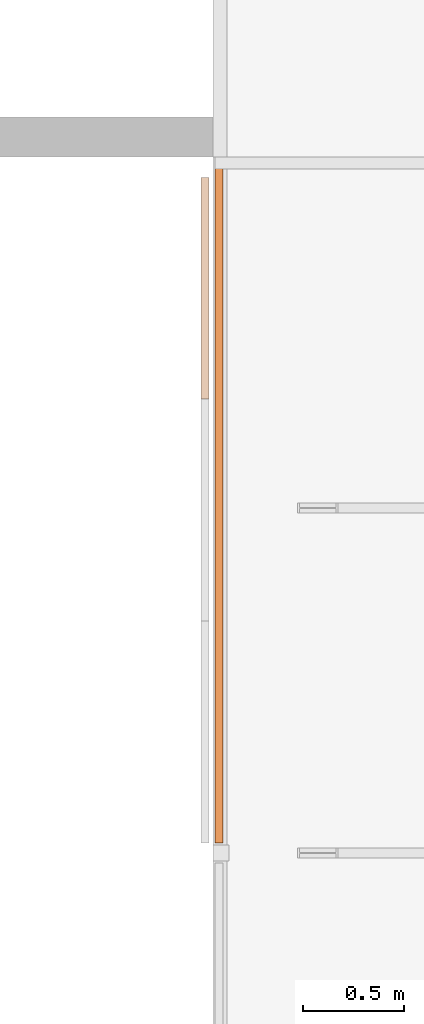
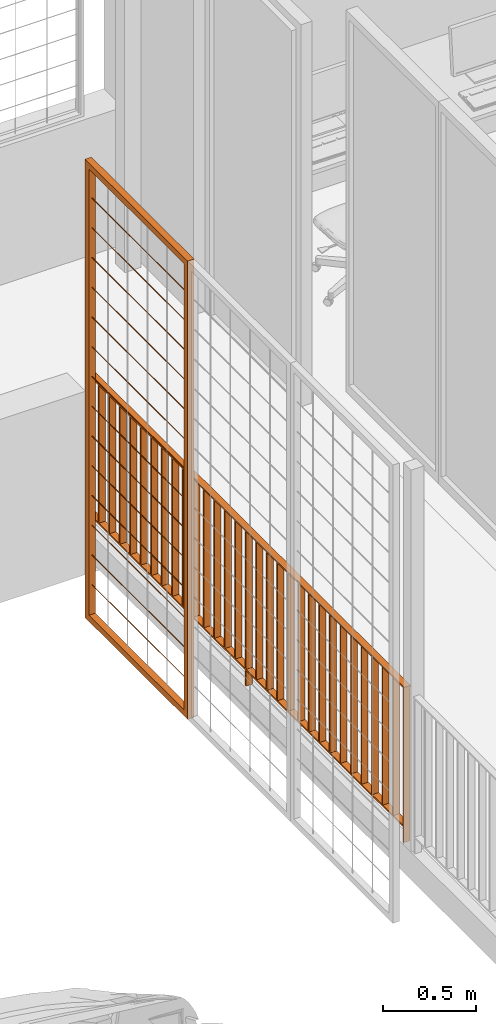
# One storey, part 46 of 51: 2 proxies.
"""IFC2X3 building model written with IfcOpenShell, lengths in metres."""

from ifc_helpers import new_model, entity, si_unit, converted_unit, derived_unit, direction, frame, frame_2d, origin, origin_2d_with_axis, place, context, subcontext, project, spatial, polyline, rectangle, outline, extrude, source, transform, mapped, material, type_object, type_shapes, element, save


model = new_model("IFC2X3")

# Units and contexts
model_context = context("Model", 3, precision=1e-05, world=origin(), true_north=direction((6.123031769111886e-17, 1.0)))
body_context = subcontext(model_context, "Body", "Model", "MODEL_VIEW")
ifc_project = project(units=[si_unit("LENGTHUNIT", "METRE"), si_unit("AREAUNIT", "SQUARE_METRE"), si_unit("VOLUMEUNIT", "CUBIC_METRE"), converted_unit("PLANEANGLEUNIT", "DEGREE", entity("IfcRatioMeasure", 0.017453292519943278), si_unit("PLANEANGLEUNIT", "RADIAN"), dimensions=[0, 0, 0, 0, 0, 0, 0]), si_unit("MASSUNIT", "GRAM", prefix="KILO"), derived_unit("MASSDENSITYUNIT", [(si_unit("MASSUNIT", "GRAM", prefix="KILO"), 1), (si_unit("LENGTHUNIT", "METRE"), -3)]), derived_unit("MOMENTOFINERTIAUNIT", [(si_unit("LENGTHUNIT", "METRE"), 4)]), si_unit("TIMEUNIT", "SECOND"), si_unit("FREQUENCYUNIT", "HERTZ"), si_unit("THERMODYNAMICTEMPERATUREUNIT", "DEGREE_CELSIUS"), derived_unit("THERMALTRANSMITTANCEUNIT", [(si_unit("MASSUNIT", "GRAM", prefix="KILO"), 1), (si_unit("THERMODYNAMICTEMPERATUREUNIT", "KELVIN"), -1), (si_unit("TIMEUNIT", "SECOND"), -3)]), derived_unit("THERMALCONDUCTANCEUNIT", [(si_unit("MASSUNIT", "GRAM", prefix="KILO"), 1), (si_unit("LENGTHUNIT", "METRE"), 1), (si_unit("THERMODYNAMICTEMPERATUREUNIT", "KELVIN"), -1), (si_unit("TIMEUNIT", "SECOND"), -3)]), derived_unit("VOLUMETRICFLOWRATEUNIT", [(si_unit("LENGTHUNIT", "METRE"), 3), (si_unit("TIMEUNIT", "SECOND"), -1)]), derived_unit("MASSFLOWRATEUNIT", [(si_unit("MASSUNIT", "GRAM", prefix="KILO"), 1), (si_unit("TIMEUNIT", "SECOND"), -1)]), derived_unit("ROTATIONALFREQUENCYUNIT", [(si_unit("TIMEUNIT", "SECOND"), -1)]), si_unit("ELECTRICCURRENTUNIT", "AMPERE"), si_unit("ELECTRICVOLTAGEUNIT", "VOLT"), si_unit("POWERUNIT", "WATT"), si_unit("FORCEUNIT", "NEWTON", prefix="KILO"), si_unit("ILLUMINANCEUNIT", "LUX"), si_unit("LUMINOUSFLUXUNIT", "LUMEN"), si_unit("LUMINOUSINTENSITYUNIT", "CANDELA"), derived_unit("USERDEFINED", [(si_unit("MASSUNIT", "GRAM", prefix="KILO"), -1), (si_unit("LENGTHUNIT", "METRE"), -2), (si_unit("TIMEUNIT", "SECOND"), 3), (si_unit("LUMINOUSFLUXUNIT", "LUMEN"), 1)]), derived_unit("USERDEFINED", [(si_unit("MASSUNIT", "GRAM", prefix="KILO"), 1), (si_unit("LENGTHUNIT", "METRE"), 3), (si_unit("TIMEUNIT", "SECOND"), -3), (si_unit("ELECTRICCURRENTUNIT", "AMPERE"), -2)]), derived_unit("USERDEFINED", [(si_unit("LENGTHUNIT", "METRE"), 2), (si_unit("TIMEUNIT", "SECOND"), -2)]), derived_unit("SOUNDPOWERUNIT", [(si_unit("MASSUNIT", "GRAM", prefix="KILO"), 1), (si_unit("LENGTHUNIT", "METRE"), 2), (si_unit("TIMEUNIT", "SECOND"), -3)]), derived_unit("SOUNDPRESSUREUNIT", [(si_unit("MASSUNIT", "GRAM", prefix="KILO"), 1), (si_unit("LENGTHUNIT", "METRE"), -1), (si_unit("TIMEUNIT", "SECOND"), -2)]), derived_unit("LINEARVELOCITYUNIT", [(si_unit("LENGTHUNIT", "METRE"), 1), (si_unit("TIMEUNIT", "SECOND"), -1)]), si_unit("PRESSUREUNIT", "PASCAL"), derived_unit("USERDEFINED", [(si_unit("LENGTHUNIT", "METRE"), -2), (si_unit("MASSUNIT", "GRAM", prefix="KILO"), 1), (si_unit("TIMEUNIT", "SECOND"), -2)]), derived_unit("LINEARFORCEUNIT", [(si_unit("MASSUNIT", "GRAM", prefix="KILO"), 1), (si_unit("LENGTHUNIT", "METRE"), 1), (si_unit("TIMEUNIT", "SECOND"), -2), (si_unit("LENGTHUNIT", "METRE"), -1)]), derived_unit("PLANARFORCEUNIT", [(si_unit("MASSUNIT", "GRAM", prefix="KILO"), 1), (si_unit("LENGTHUNIT", "METRE"), 1), (si_unit("TIMEUNIT", "SECOND"), -2), (si_unit("LENGTHUNIT", "METRE"), -2)]), derived_unit("SPECIFICHEATCAPACITYUNIT", [(si_unit("LENGTHUNIT", "METRE"), 2), (si_unit("TIMEUNIT", "SECOND"), -2), (si_unit("THERMODYNAMICTEMPERATUREUNIT", "KELVIN"), -1)]), derived_unit("VAPORPERMEABILITYUNIT", [(si_unit("TIMEUNIT", "SECOND"), 1), (si_unit("LENGTHUNIT", "METRE"), -1)]), derived_unit("DYNAMICVISCOSITYUNIT", [(si_unit("MASSUNIT", "GRAM", prefix="KILO"), 1), (si_unit("LENGTHUNIT", "METRE"), -1), (si_unit("TIMEUNIT", "SECOND"), -1)]), derived_unit("THERMALEXPANSIONCOEFFICIENTUNIT", [(si_unit("THERMODYNAMICTEMPERATUREUNIT", "KELVIN"), -1)])], contexts=[model_context])

# Site, building, storey
site_placement = place(None, origin())
site = spatial("IfcSite", under=ifc_project, at=site_placement, Name="Default", CompositionType="ELEMENT")
building_placement = place(site_placement, origin())
building = spatial("IfcBuilding", under=site, at=building_placement, CompositionType="ELEMENT")
storey_placement = place(building_placement, frame((0.0, 0.0, 3.06)))
storey = spatial("IfcBuildingStorey", under=building, at=storey_placement, Name="ÉTAGE", CompositionType="ELEMENT", Elevation=3.06)

# Proxies
ifc_material_1 = material(Name="Peinture - Gris foncé")
building_element_proxy_type_1 = type_object("IfcBuildingElementProxyType", Name="Symb-0003", PredefinedType="NOTDEFINED", material=ifc_material_1)
shared_shape_1 = source(origin(), body_context, "Body", "SweptSolid", [
    extrude(outline(polyline([(-0.0011785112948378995, -0.002357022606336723), (0.0, -0.0023570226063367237), (0.001767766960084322, -0.0017677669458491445), (0.002357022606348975, 0.0), (0.0023570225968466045, 0.0011785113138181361), (0.0011785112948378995, 0.002357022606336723), (0.0, 0.002357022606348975), (-0.001767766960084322, 0.0017677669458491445), (-0.0023570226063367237, 0.0), (-0.0023570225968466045, -0.0011785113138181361), (-0.0011785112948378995, -0.002357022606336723)])), frame((139.86075228, 22.6772095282, 6.7275), z_axis=(0.0, 1.0, 0.0), x_axis=(-0.7071067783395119, 0.0, -0.7071067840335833)), (0.0, 0.0, 1.0), 1.0200000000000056),
    extrude(outline(polyline([(-0.0011785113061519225, -0.0023570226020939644), (0.0, -0.002357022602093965), (0.0017677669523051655, -0.001767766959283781), (0.0023570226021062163, 0.0), (0.002357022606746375, 0.0011785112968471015), (0.0011785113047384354, 0.0023570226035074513), (0.0, 0.0023570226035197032), (-0.0017677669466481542, 0.0017677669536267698), (-0.002357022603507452, 0.0), (-0.0023570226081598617, -0.0011785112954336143), (-0.0011785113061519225, -0.0023570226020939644)])), frame((139.86075228, 22.6772095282, 6.532833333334), z_axis=(0.0, 1.0, 0.0), x_axis=(-0.7071067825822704, 0.0, -0.7071067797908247)), (0.0, 0.0, 1.0), 1.0200000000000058),
    extrude(outline(polyline([(-0.001178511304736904, -0.002357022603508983), (0.0, -0.002357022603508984), (0.0017677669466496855, -0.001767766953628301), (0.002357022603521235, 0.0), (0.0023570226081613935, 0.0011785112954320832), (0.0011785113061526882, 0.002357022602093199), (0.0, 0.002357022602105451), (-0.0017677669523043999, 0.0017677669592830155), (-0.0023570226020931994, 0.0), (-0.0023570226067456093, -0.0011785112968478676), (-0.001178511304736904, -0.002357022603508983)])), frame((139.86075228, 22.6772095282, 6.338166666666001), z_axis=(0.0, 1.0, 0.0), x_axis=(-0.7071067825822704, 0.0, -0.7071067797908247)), (0.0, 0.0, 1.0), 1.0200000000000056),
    extrude(outline(polyline([(-0.0011785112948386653, -0.0023570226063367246), (0.0, -0.0023570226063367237), (0.0017677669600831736, -0.001767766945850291), (0.002357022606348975, 0.0), (0.0023570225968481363, 0.001178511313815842), (0.0011785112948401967, 0.0023570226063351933), (0.0, 0.002357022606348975), (-0.001767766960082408, 0.0017677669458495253), (-0.0023570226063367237, 0.0), (-0.002357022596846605, -0.0011785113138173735), (-0.0011785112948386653, -0.0023570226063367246)])), frame((139.86075228, 22.6772095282, 6.1435), z_axis=(0.0, 1.0, 0.0), x_axis=(-0.7071067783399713, 0.0, -0.7071067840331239)), (0.0, 0.0, 1.0), 1.0200000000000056),
    extrude(outline(polyline([(-0.0011785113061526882, -0.002357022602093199), (0.0, -0.0023570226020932), (0.0017677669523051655, -0.001767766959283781), (0.002357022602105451, 0.0), (0.0023570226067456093, 0.0011785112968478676), (0.0011785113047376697, 0.002357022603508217), (0.0, 0.0023570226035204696), (-0.0017677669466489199, 0.0017677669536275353), (-0.002357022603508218, 0.0), (-0.0023570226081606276, -0.0011785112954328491), (-0.0011785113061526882, -0.002357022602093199)])), frame((139.86075228, 22.6772095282, 5.948833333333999), z_axis=(0.0, 1.0, 0.0), x_axis=(-0.7071067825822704, 0.0, -0.7071067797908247)), (0.0, 0.0, 1.0), 1.0200000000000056),
    extrude(outline(polyline([(-0.0011785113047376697, -0.002357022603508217), (0.0, -0.002357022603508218), (0.0017677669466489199, -0.0017677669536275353), (0.0023570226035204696, 0.0), (0.0023570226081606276, 0.0011785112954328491), (0.0011785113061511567, 0.0023570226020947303), (0.0, 0.0023570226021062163), (-0.0017677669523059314, 0.0017677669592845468), (-0.0023570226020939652, 0.0), (-0.0023570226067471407, -0.0011785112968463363), (-0.0011785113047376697, -0.002357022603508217)])), frame((139.86075228, 22.6772095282, 5.754166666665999), z_axis=(0.0, 1.0, 0.0), x_axis=(-0.7071067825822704, 0.0, -0.7071067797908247)), (0.0, 0.0, 1.0), 1.0200000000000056),
    extrude(outline(polyline([(-0.001178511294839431, -0.0023570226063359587), (0.0, -0.002357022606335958), (0.001767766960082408, -0.0017677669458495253), (0.0023570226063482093, 0.0), (0.0023570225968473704, 0.0011785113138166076), (0.001178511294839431, 0.0023570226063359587), (0.0, 0.0023570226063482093), (-0.001767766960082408, 0.0017677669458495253), (-0.002357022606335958, 0.0), (-0.0023570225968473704, -0.0011785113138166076), (-0.001178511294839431, -0.0023570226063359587)])), frame((139.86075228, 22.6772095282, 5.5595), z_axis=(0.0, 1.0, 0.0), x_axis=(-0.7071067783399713, 0.0, -0.7071067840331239)), (0.0, 0.0, 1.0), 1.0200000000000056),
    extrude(outline(polyline([(-0.0011785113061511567, -0.0023570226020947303), (0.0, -0.002357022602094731), (0.001767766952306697, -0.0017677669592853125), (0.002357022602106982, 0.0), (0.0023570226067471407, 0.0011785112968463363), (0.001178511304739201, 0.0023570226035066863), (0.0, 0.0023570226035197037), (-0.0017677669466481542, 0.0017677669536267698), (-0.002357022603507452, 0.0), (-0.0023570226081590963, -0.0011785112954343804), (-0.0011785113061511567, -0.0023570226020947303)])), frame((139.86075228, 22.6772095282, 5.364833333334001), z_axis=(0.0, 1.0, 0.0), x_axis=(-0.7071067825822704, 0.0, -0.7071067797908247)), (0.0, 0.0, 1.0), 1.0200000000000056),
    extrude(outline(polyline([(-0.001178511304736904, -0.002357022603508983), (0.0, -0.002357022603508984), (0.0017677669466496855, -0.001767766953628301), (0.002357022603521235, 0.0), (0.0023570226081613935, 0.0011785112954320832), (0.0011785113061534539, 0.002357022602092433), (0.0, 0.002357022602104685), (-0.0017677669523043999, 0.0017677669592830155), (-0.002357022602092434, 0.0), (-0.0023570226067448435, -0.0011785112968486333), (-0.001178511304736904, -0.002357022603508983)])), frame((139.86075228, 22.6772095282, 5.1701666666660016), z_axis=(0.0, 1.0, 0.0), x_axis=(-0.7071067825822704, 0.0, -0.7071067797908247)), (0.0, 0.0, 1.0), 1.0200000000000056),
    extrude(outline(polyline([(-0.001178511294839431, -0.0023570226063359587), (0.0, -0.002357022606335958), (0.001767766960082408, -0.0017677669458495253), (0.0023570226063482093, 0.0), (0.0023570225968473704, 0.0011785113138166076), (0.0011785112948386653, 0.0023570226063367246), (0.0, 0.0023570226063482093), (-0.0017677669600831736, 0.001767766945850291), (-0.002357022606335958, 0.0), (-0.0023570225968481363, -0.001178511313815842), (-0.001178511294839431, -0.0023570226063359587)])), frame((139.86075228, 22.6772095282, 4.975499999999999), z_axis=(0.0, 1.0, 0.0), x_axis=(-0.7071067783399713, 0.0, -0.7071067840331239)), (0.0, 0.0, 1.0), 1.0200000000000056),
    extrude(outline(polyline([(-0.0011785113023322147, -0.0023570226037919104), (0.0, -0.002357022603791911), (0.0017677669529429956, -0.0017677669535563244), (0.002357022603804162, 0.0), (0.002357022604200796, 0.0011785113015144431), (0.0011785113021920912, 0.002357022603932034), (0.0, 0.0023570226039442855), (-0.001767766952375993, 0.0017677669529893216), (-0.0023570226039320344, 0.0), (-0.0023570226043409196, -0.0011785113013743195), (-0.0011785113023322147, -0.0023570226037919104)])), frame((139.86075228, 22.6772095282, 4.780833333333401), z_axis=(0.0, 1.0, 0.0), x_axis=(-0.7071067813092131, 0.0, -0.7071067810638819)), (0.0, 0.0, 1.0), 1.0200000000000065),
    extrude(outline(polyline([(-0.0011785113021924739, -0.0023570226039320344), (0.0, -0.0023570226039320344), (0.0017677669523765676, -0.0017677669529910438), (0.002357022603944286, 0.0), (0.0023570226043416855, 0.0011785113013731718), (0.0011785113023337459, 0.002357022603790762), (0.0, 0.0023570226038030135), (-0.0017677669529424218, 0.0017677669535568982), (-0.0023570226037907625, 0.0), (-0.002357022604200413, -0.001178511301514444), (-0.0011785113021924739, -0.0023570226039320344)])), frame((139.86075228, 22.6772095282, 4.5861666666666), z_axis=(0.0, 1.0, 0.0), x_axis=(-0.7071067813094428, 0.0, -0.7071067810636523)), (0.0, 0.0, 1.0), 1.0200000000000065),
    extrude(outline(polyline([(-0.0011785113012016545, -0.0023570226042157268), (0.0, -0.002357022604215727), (0.001767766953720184, -0.0017677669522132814), (0.0023570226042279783, 0.0), (0.0023570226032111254, 0.0011785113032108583), (0.001178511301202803, 0.0023570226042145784), (0.0, 0.002357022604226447), (-0.0017677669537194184, 0.0017677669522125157), (-0.002357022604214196, 0.0), (-0.0023570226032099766, -0.0011785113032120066), (-0.0011785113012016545, -0.0023570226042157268)])), frame((139.86075228, 22.6772095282, 4.391500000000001), z_axis=(0.0, 1.0, 0.0), x_axis=(-0.707106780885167, 0.0, -0.707106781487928)), (0.0, 0.0, 1.0), 1.0200000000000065),
    extrude(outline(polyline([(-0.0011785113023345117, -0.0023570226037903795), (0.0, -0.0023570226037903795), (0.0017677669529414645, -0.0017677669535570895), (0.0023570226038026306, 0.0), (0.002357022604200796, 0.0011785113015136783), (0.001178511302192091, 0.0023570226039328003), (0.0, 0.002357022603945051), (-0.00176776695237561, 0.001767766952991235), (-0.0023570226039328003, 0.0), (-0.002357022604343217, -0.0011785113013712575), (-0.0011785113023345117, -0.0023570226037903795)])), frame((139.86075228, 22.6772095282, 4.196833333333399), z_axis=(0.0, 1.0, 0.0), x_axis=(-0.7071067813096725, 0.0, -0.7071067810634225)), (0.0, 0.0, 1.0), 1.0200000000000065),
    extrude(outline(polyline([(-0.001178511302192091, -0.002357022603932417), (0.0, -0.0023570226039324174), (0.0017677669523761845, -0.0017677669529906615), (0.0023570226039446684, 0.0), (0.0023570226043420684, 0.0011785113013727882), (0.0011785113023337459, 0.002357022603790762), (0.0, 0.0023570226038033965), (-0.001767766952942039, 0.001767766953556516), (-0.0023570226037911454, 0.0), (-0.002357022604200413, -0.0011785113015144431), (-0.001178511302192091, -0.002357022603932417)])), frame((139.86075228, 22.6772095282, 4.0021666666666), z_axis=(0.0, 1.0, 0.0), x_axis=(-0.7071067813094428, 0.0, -0.7071067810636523)), (0.0, 0.0, 1.0), 1.0200000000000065),
    extrude(rectangle(XDim=1.1000000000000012, YDim=0.039999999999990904, at=origin_2d_with_axis()), frame((139.86075227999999, 23.1872095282, 6.73), z_axis=(0.0, 0.0, 1.0), x_axis=(0.0, 1.0, 0.0)), (0.0, 0.0, 1.0), 0.03999999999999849),
    extrude(rectangle(XDim=1.1000000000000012, YDim=0.039999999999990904, at=origin_2d_with_axis()), frame((139.86075227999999, 23.1872095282, 3.7699999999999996), z_axis=(0.0, 0.0, 1.0), x_axis=(0.0, 1.0, 0.0)), (0.0, 0.0, 1.0), 0.04000000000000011),
    extrude(rectangle(XDim=0.03999999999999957, YDim=0.039999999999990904, at=origin_2d_with_axis()), frame((139.86075227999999, 22.6572095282, 3.8099999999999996), z_axis=(0.0, 0.0, 1.0), x_axis=(0.0, 1.0, 0.0)), (0.0, 0.0, 1.0), 2.9200000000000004),
    extrude(rectangle(XDim=0.03999999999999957, YDim=0.039999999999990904, at=origin_2d_with_axis()), frame((139.86075227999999, 23.7172095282, 3.8099999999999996), z_axis=(0.0, 0.0, 1.0), x_axis=(0.0, 1.0, 0.0)), (0.0, 0.0, 1.0), 2.9200000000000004),
])
type_shapes(building_element_proxy_type_1, [shared_shape_1])
proxy_1_placement = place(storey_placement, frame((0.0, 0.0, -3.06)))
element("IfcBuildingElementProxy", 1, at=proxy_1_placement, inside=storey, type_object=building_element_proxy_type_1, material=ifc_material_1, Name="Symb-0003 285721:Symb-0003 285721", ObjectType="Symb-0003 285721:Symb-0003 285721", context=body_context, shape_type="MappedRepresentation", body=[
    mapped(shared_shape_1, transform((0.0, 0.0, 0.0), scale=1.0)),
])
ifc_material_2 = material(Name="Peinture - Anthracite")
building_element_proxy_type_2 = type_object("IfcBuildingElementProxyType", Name="Symb-0003", PredefinedType="NOTDEFINED", material=ifc_material_2)
shared_shape_2 = source(origin(), body_context, "Body", "SweptSolid", [
    extrude(rectangle(XDim=0.04000000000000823, YDim=0.010000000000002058, at=frame_2d((8.663209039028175e-15, 2.1658022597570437e-15), x_axis=(1.0, 0.0))), frame((139.93075228, 20.559876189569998, 4.38), z_axis=(0.0, 0.0, 1.0), x_axis=(-1.0, 0.0, 0.0)), (0.0, 0.0, 1.0), 0.9),
    extrude(rectangle(XDim=0.04000000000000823, YDim=0.010000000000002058, at=frame_2d((8.663209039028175e-15, -2.1658022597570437e-15), x_axis=(1.0, 0.0))), frame((139.93075228, 20.672542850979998, 4.38), z_axis=(0.0, 0.0, 1.0), x_axis=(-1.0, 0.0, 0.0)), (0.0, 0.0, 1.0), 0.9),
    extrude(rectangle(XDim=0.04000000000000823, YDim=0.010000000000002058, at=frame_2d((8.663209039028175e-15, -2.1658022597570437e-15), x_axis=(1.0, 0.0))), frame((139.93075228, 20.785209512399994, 4.38), z_axis=(0.0, 0.0, 1.0), x_axis=(-1.0, 0.0, 0.0)), (0.0, 0.0, 1.0), 0.9),
    extrude(rectangle(XDim=0.04000000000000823, YDim=0.010000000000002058, at=frame_2d((8.663209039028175e-15, -2.1658022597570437e-15), x_axis=(1.0, 0.0))), frame((139.93075228, 20.897876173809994, 4.38), z_axis=(0.0, 0.0, 1.0), x_axis=(-1.0, 0.0, 0.0)), (0.0, 0.0, 1.0), 0.9),
    extrude(rectangle(XDim=0.04000000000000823, YDim=0.010000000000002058, at=frame_2d((8.663209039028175e-15, -2.1658022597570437e-15), x_axis=(1.0, 0.0))), frame((139.93075228, 21.010542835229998, 4.38), z_axis=(0.0, 0.0, 1.0), x_axis=(-1.0, 0.0, 0.0)), (0.0, 0.0, 1.0), 0.9),
    extrude(rectangle(XDim=0.04000000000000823, YDim=0.010000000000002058, at=frame_2d((8.663209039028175e-15, -2.1658022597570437e-15), x_axis=(1.0, 0.0))), frame((139.93075228, 21.123209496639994, 4.38), z_axis=(0.0, 0.0, 1.0), x_axis=(-1.0, 0.0, 0.0)), (0.0, 0.0, 1.0), 0.9),
    extrude(rectangle(XDim=0.04000000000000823, YDim=0.010000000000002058, at=frame_2d((8.663209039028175e-15, -2.1658022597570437e-15), x_axis=(1.0, 0.0))), frame((139.93075228, 21.235876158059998, 4.38), z_axis=(0.0, 0.0, 1.0), x_axis=(-1.0, 0.0, 0.0)), (0.0, 0.0, 1.0), 0.9),
    extrude(rectangle(XDim=0.04000000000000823, YDim=0.010000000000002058, at=frame_2d((8.663209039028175e-15, -2.1658022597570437e-15), x_axis=(1.0, 0.0))), frame((139.93075228, 21.348542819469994, 4.38), z_axis=(0.0, 0.0, 1.0), x_axis=(-1.0, 0.0, 0.0)), (0.0, 0.0, 1.0), 0.9),
    extrude(rectangle(XDim=0.04000000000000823, YDim=0.010000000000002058, at=frame_2d((8.663209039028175e-15, -2.1658022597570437e-15), x_axis=(1.0, 0.0))), frame((139.93075228, 21.46120948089, 4.38), z_axis=(0.0, 0.0, 1.0), x_axis=(-1.0, 0.0, 0.0)), (0.0, 0.0, 1.0), 0.9),
    extrude(rectangle(XDim=0.04000000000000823, YDim=0.009999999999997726, at=frame_2d((8.663209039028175e-15, 0.0), x_axis=(1.0, 0.0))), frame((139.93075228, 21.573876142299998, 4.38), z_axis=(0.0, 0.0, 1.0), x_axis=(-1.0, 0.0, 0.0)), (0.0, 0.0, 1.0), 0.9),
    extrude(rectangle(XDim=0.04000000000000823, YDim=0.010000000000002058, at=frame_2d((8.663209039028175e-15, -2.1658022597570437e-15), x_axis=(1.0, 0.0))), frame((139.93075228, 21.686542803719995, 4.38), z_axis=(0.0, 0.0, 1.0), x_axis=(-1.0, 0.0, 0.0)), (0.0, 0.0, 1.0), 0.9),
    extrude(rectangle(XDim=0.04000000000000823, YDim=0.010000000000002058, at=frame_2d((8.663209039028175e-15, -2.1658022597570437e-15), x_axis=(1.0, 0.0))), frame((139.93075228, 21.799209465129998, 4.38), z_axis=(0.0, 0.0, 1.0), x_axis=(-1.0, 0.0, 0.0)), (0.0, 0.0, 1.0), 0.9),
    extrude(rectangle(XDim=0.04000000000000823, YDim=0.010000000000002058, at=frame_2d((8.663209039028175e-15, -2.1658022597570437e-15), x_axis=(1.0, 0.0))), frame((139.93075228, 21.911876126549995, 4.38), z_axis=(0.0, 0.0, 1.0), x_axis=(-1.0, 0.0, 0.0)), (0.0, 0.0, 1.0), 0.9),
    extrude(rectangle(XDim=0.04000000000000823, YDim=0.010000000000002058, at=frame_2d((8.663209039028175e-15, 2.1658022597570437e-15), x_axis=(1.0, 0.0))), frame((139.93075228, 22.02454278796, 4.38), z_axis=(0.0, 0.0, 1.0), x_axis=(-1.0, 0.0, 0.0)), (0.0, 0.0, 1.0), 0.9),
    extrude(rectangle(XDim=0.04000000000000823, YDim=0.010000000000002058, at=frame_2d((8.663209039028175e-15, -2.1658022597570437e-15), x_axis=(1.0, 0.0))), frame((139.93075228, 22.249876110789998, 4.38), z_axis=(0.0, 0.0, 1.0), x_axis=(-1.0, 0.0, 0.0)), (0.0, 0.0, 1.0), 0.9),
    extrude(rectangle(XDim=0.04000000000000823, YDim=0.009999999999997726, at=frame_2d((8.663209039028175e-15, 0.0), x_axis=(1.0, 0.0))), frame((139.93075228, 22.36254277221, 4.38), z_axis=(0.0, 0.0, 1.0), x_axis=(-1.0, 0.0, 0.0)), (0.0, 0.0, 1.0), 0.9),
    extrude(rectangle(XDim=0.04000000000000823, YDim=0.010000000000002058, at=frame_2d((8.663209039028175e-15, 2.1658022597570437e-15), x_axis=(1.0, 0.0))), frame((139.93075228, 22.47520943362, 4.38), z_axis=(0.0, 0.0, 1.0), x_axis=(-1.0, 0.0, 0.0)), (0.0, 0.0, 1.0), 0.9),
    extrude(rectangle(XDim=0.04000000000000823, YDim=0.010000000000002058, at=frame_2d((8.663209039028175e-15, 2.1658022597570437e-15), x_axis=(1.0, 0.0))), frame((139.93075228, 22.587876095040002, 4.38), z_axis=(0.0, 0.0, 1.0), x_axis=(-1.0, 0.0, 0.0)), (0.0, 0.0, 1.0), 0.9),
    extrude(rectangle(XDim=0.04000000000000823, YDim=0.010000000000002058, at=frame_2d((8.663209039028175e-15, -2.1658022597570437e-15), x_axis=(1.0, 0.0))), frame((139.93075228, 22.700542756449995, 4.38), z_axis=(0.0, 0.0, 1.0), x_axis=(-1.0, 0.0, 0.0)), (0.0, 0.0, 1.0), 0.9),
    extrude(rectangle(XDim=0.04000000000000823, YDim=0.010000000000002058, at=frame_2d((8.663209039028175e-15, -2.1658022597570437e-15), x_axis=(1.0, 0.0))), frame((139.93075228, 22.81320941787, 4.38), z_axis=(0.0, 0.0, 1.0), x_axis=(-1.0, 0.0, 0.0)), (0.0, 0.0, 1.0), 0.9),
    extrude(rectangle(XDim=0.04000000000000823, YDim=0.009999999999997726, at=frame_2d((8.663209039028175e-15, 0.0), x_axis=(1.0, 0.0))), frame((139.93075228, 22.925876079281, 4.38), z_axis=(0.0, 0.0, 1.0), x_axis=(-1.0, 0.0, 0.0)), (0.0, 0.0, 1.0), 0.9),
    extrude(rectangle(XDim=0.04000000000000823, YDim=0.010000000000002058, at=frame_2d((8.663209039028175e-15, 2.1658022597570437e-15), x_axis=(1.0, 0.0))), frame((139.93075228, 23.038542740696, 4.38), z_axis=(0.0, 0.0, 1.0), x_axis=(-1.0, 0.0, 0.0)), (0.0, 0.0, 1.0), 0.9),
    extrude(rectangle(XDim=0.04000000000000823, YDim=0.009999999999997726, at=frame_2d((8.663209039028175e-15, 0.0), x_axis=(1.0, 0.0))), frame((139.93075228, 23.151209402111, 4.38), z_axis=(0.0, 0.0, 1.0), x_axis=(-1.0, 0.0, 0.0)), (0.0, 0.0, 1.0), 0.9),
    extrude(rectangle(XDim=0.04000000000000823, YDim=0.010000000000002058, at=frame_2d((8.663209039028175e-15, -2.1658022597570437e-15), x_axis=(1.0, 0.0))), frame((139.93075228, 23.263876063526, 4.38), z_axis=(0.0, 0.0, 1.0), x_axis=(-1.0, 0.0, 0.0)), (0.0, 0.0, 1.0), 0.9),
    extrude(rectangle(XDim=0.04000000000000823, YDim=0.010000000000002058, at=frame_2d((8.663209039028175e-15, -2.1658022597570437e-15), x_axis=(1.0, 0.0))), frame((139.93075228, 23.37654272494, 4.38), z_axis=(0.0, 0.0, 1.0), x_axis=(-1.0, 0.0, 0.0)), (0.0, 0.0, 1.0), 0.9),
    extrude(rectangle(XDim=0.04000000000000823, YDim=0.009999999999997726, at=frame_2d((8.663209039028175e-15, 0.0), x_axis=(1.0, 0.0))), frame((139.93075228, 23.489209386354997, 4.38), z_axis=(0.0, 0.0, 1.0), x_axis=(-1.0, 0.0, 0.0)), (0.0, 0.0, 1.0), 0.9),
    extrude(rectangle(XDim=0.04000000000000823, YDim=0.010000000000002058, at=frame_2d((8.663209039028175e-15, -2.1658022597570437e-15), x_axis=(1.0, 0.0))), frame((139.93075228, 23.60187604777, 4.38), z_axis=(0.0, 0.0, 1.0), x_axis=(-1.0, 0.0, 0.0)), (0.0, 0.0, 1.0), 0.9),
    extrude(rectangle(XDim=0.04000000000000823, YDim=0.010000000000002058, at=frame_2d((8.663209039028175e-15, 2.1658022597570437e-15), x_axis=(1.0, 0.0))), frame((139.93075228, 23.714542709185, 4.38), z_axis=(0.0, 0.0, 1.0), x_axis=(-1.0, 0.0, 0.0)), (0.0, 0.0, 1.0), 0.9),
    extrude(rectangle(XDim=0.04000000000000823, YDim=1.6799999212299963, at=frame_2d((8.663209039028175e-15, -2.1649348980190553e-15), x_axis=(1.0, 0.0))), frame((139.93075228, 21.292209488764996, 4.37), z_axis=(0.0, 0.0, 1.0), x_axis=(-1.0, 0.0, 0.0)), (0.0, 0.0, 1.0), 0.009999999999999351),
    extrude(rectangle(XDim=0.04000000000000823, YDim=1.6799999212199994, at=frame_2d((-8.663209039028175e-15, -2.1649348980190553e-15), x_axis=(1.0, 0.0))), frame((139.93075228, 22.98220940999, 4.37)), (0.0, 0.0, 1.0), 0.009999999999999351),
    extrude(rectangle(XDim=0.04000000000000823, YDim=0.009999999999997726, at=frame_2d((8.663209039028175e-15, 0.0), x_axis=(1.0, 0.0))), frame((139.93075228, 20.44720952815, 4.27), z_axis=(0.0, 0.0, 1.0), x_axis=(-1.0, 0.0, 0.0)), (0.0, 0.0, 1.0), 1.01),
    extrude(rectangle(XDim=0.04000000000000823, YDim=0.010000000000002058, at=frame_2d((8.663209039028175e-15, -2.1658022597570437e-15), x_axis=(1.0, 0.0))), frame((139.93075228, 22.137209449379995, 4.27), z_axis=(0.0, 0.0, 1.0), x_axis=(-1.0, 0.0, 0.0)), (0.0, 0.0, 1.0), 1.01),
    extrude(rectangle(XDim=0.04000000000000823, YDim=0.010000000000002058, at=frame_2d((8.663209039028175e-15, -2.1658022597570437e-15), x_axis=(1.0, 0.0))), frame((139.93075228, 23.827209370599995, 4.27), z_axis=(0.0, 0.0, 1.0), x_axis=(-1.0, 0.0, 0.0)), (0.0, 0.0, 1.0), 1.01),
    extrude(rectangle(XDim=3.3999998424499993, YDim=0.04000000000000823, at=frame_2d((2.220446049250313e-15, 8.663209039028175e-15), x_axis=(1.0, 0.0))), frame((139.93075228, 22.137209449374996, 5.279999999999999), z_axis=(0.0, 0.0, 1.0), x_axis=(0.0, 1.0, 0.0)), (0.0, 0.0, 1.0), 0.009999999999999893),
])
type_shapes(building_element_proxy_type_2, [shared_shape_2])
proxy_2_placement = place(storey_placement, frame((0.0, 0.0, -3.06)))
element("IfcBuildingElementProxy", 2, at=proxy_2_placement, inside=storey, type_object=building_element_proxy_type_2, material=ifc_material_2, Name="Symb-0003 467921:Symb-0003 467921", ObjectType="Symb-0003 467921:Symb-0003 467921", context=body_context, shape_type="MappedRepresentation", body=[
    mapped(shared_shape_2, transform((0.0, 0.0, 0.0), scale=1.0)),
])

save(model, "model.ifc")
